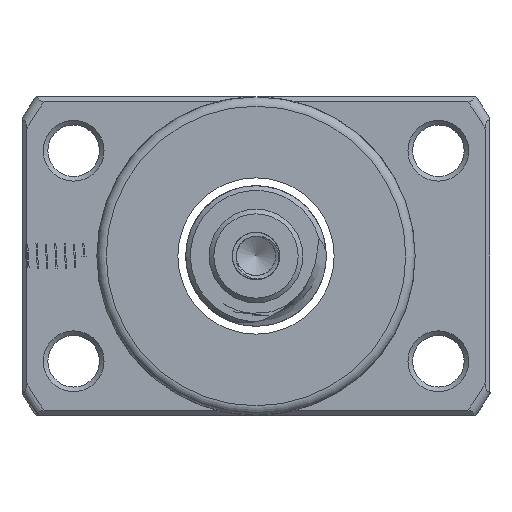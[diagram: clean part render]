
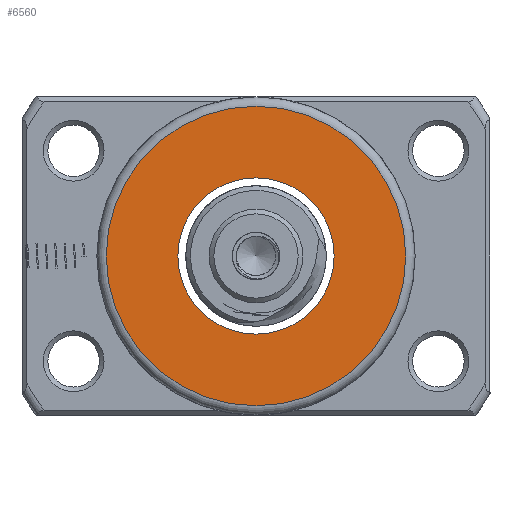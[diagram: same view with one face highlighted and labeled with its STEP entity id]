
A CAD part, left-side view. The second image highlights one B-rep face of the part: STEP entity #6560.
In plain terms, the highlighted planar face has unit normal (-1, 0, 0).
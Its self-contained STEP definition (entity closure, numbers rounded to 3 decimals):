
#486 = CARTESIAN_POINT ( 'NONE',  ( -53.324, 0., 8.35 ) ) ;
#695 = DIRECTION ( 'NONE',  ( -1., 0., 0. ) ) ;
#2105 = FACE_OUTER_BOUND ( 'NONE', #19362, .T. ) ;
#2182 = CARTESIAN_POINT ( 'NONE',  ( -53.324, 0., 0. ) ) ;
#2288 = CIRCLE ( 'NONE', #8854, 8.35 ) ;
#3932 = FACE_BOUND ( 'NONE', #15799, .T. ) ;
#5870 = VERTEX_POINT ( 'NONE', #486 ) ;
#6560 = ADVANCED_FACE ( 'NONE', ( #2105, #3932 ), #12856, .T. ) ;
#6726 = DIRECTION ( 'NONE',  ( -1., 0., 0. ) ) ;
#7670 = DIRECTION ( 'NONE',  ( 0., 0., 1. ) ) ;
#8654 = CARTESIAN_POINT ( 'NONE',  ( -53.324, 0., 0. ) ) ;
#8854 = AXIS2_PLACEMENT_3D ( 'NONE', #2182, #695, #7670 ) ;
#9192 = CARTESIAN_POINT ( 'NONE',  ( -53.324, 8.35, 0. ) ) ;
#11300 = CIRCLE ( 'NONE', #18235, 16. ) ;
#12200 = DIRECTION ( 'NONE',  ( 0., 0., 1. ) ) ;
#12396 = DIRECTION ( 'NONE',  ( 0., 0., 1. ) ) ;
#12628 = EDGE_CURVE ( 'NONE', #5870, #5870, #2288, .T. ) ;
#12856 = PLANE ( 'NONE',  #13200 ) ;
#13200 = AXIS2_PLACEMENT_3D ( 'NONE', #9192, #19827, #12396 ) ;
#15799 = EDGE_LOOP ( 'NONE', ( #15820 ) ) ;
#15820 = ORIENTED_EDGE ( 'NONE', *, *, #12628, .F. ) ;
#16034 = CARTESIAN_POINT ( 'NONE',  ( -53.324, 0., 16. ) ) ;
#16495 = EDGE_CURVE ( 'NONE', #19465, #19465, #11300, .T. ) ;
#18235 = AXIS2_PLACEMENT_3D ( 'NONE', #8654, #6726, #12200 ) ;
#19362 = EDGE_LOOP ( 'NONE', ( #20811 ) ) ;
#19465 = VERTEX_POINT ( 'NONE', #16034 ) ;
#19827 = DIRECTION ( 'NONE',  ( -1., 0., 0. ) ) ;
#20811 = ORIENTED_EDGE ( 'NONE', *, *, #16495, .T. ) ;
